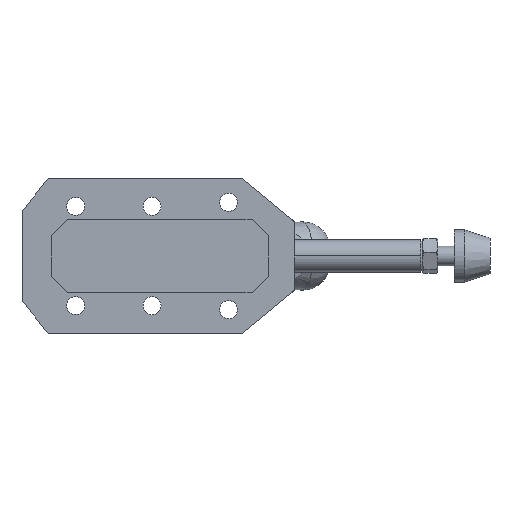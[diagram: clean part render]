
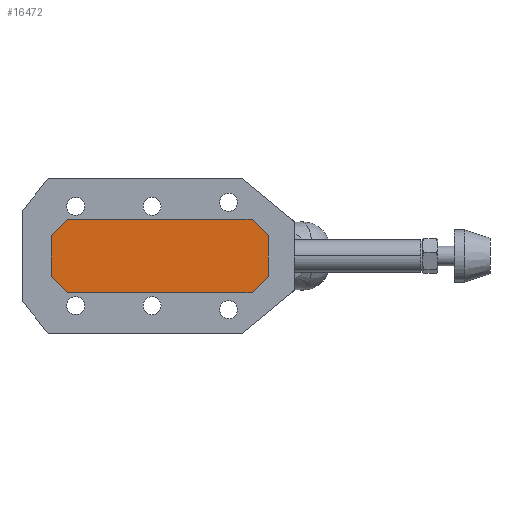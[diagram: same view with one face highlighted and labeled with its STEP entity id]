
A CAD part, front view. The second image highlights one B-rep face of the part: STEP entity #16472.
In plain terms, the highlighted planar face has unit normal (0, -1, 0).
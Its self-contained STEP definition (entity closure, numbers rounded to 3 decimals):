
#303 = VERTEX_POINT ( 'NONE', #901 ) ;
#901 = CARTESIAN_POINT ( 'NONE',  ( 28.85, 1.8, -11.25 ) ) ;
#937 = ORIENTED_EDGE ( 'NONE', *, *, #30912, .T. ) ;
#1190 = ORIENTED_EDGE ( 'NONE', *, *, #5530, .T. ) ;
#1215 = EDGE_CURVE ( 'NONE', #14319, #30948, #18973, .T. ) ;
#1530 = CARTESIAN_POINT ( 'NONE',  ( -27.85, 1.8, 11.25 ) ) ;
#2660 = VERTEX_POINT ( 'NONE', #10343 ) ;
#2818 = ORIENTED_EDGE ( 'NONE', *, *, #6540, .T. ) ;
#3074 = ORIENTED_EDGE ( 'NONE', *, *, #1215, .T. ) ;
#3282 = VECTOR ( 'NONE', #3623, 1000. ) ;
#3623 = DIRECTION ( 'NONE',  ( 0., 0., 1. ) ) ;
#4206 = DIRECTION ( 'NONE',  ( 0.707, 0., 0.707 ) ) ;
#4219 = CARTESIAN_POINT ( 'NONE',  ( 28.85, 1.8, 11.25 ) ) ;
#4646 = DIRECTION ( 'NONE',  ( 0., 1., 0. ) ) ;
#4655 = AXIS2_PLACEMENT_3D ( 'NONE', #19993, #4646, #27403 ) ;
#5314 = ORIENTED_EDGE ( 'NONE', *, *, #29201, .T. ) ;
#5530 = EDGE_CURVE ( 'NONE', #15562, #28912, #11208, .T. ) ;
#5887 = VECTOR ( 'NONE', #16434, 1000. ) ;
#6540 = EDGE_CURVE ( 'NONE', #303, #14319, #17355, .T. ) ;
#6912 = CARTESIAN_POINT ( 'NONE',  ( -32.85, 1.8, 6.25 ) ) ;
#7261 = ORIENTED_EDGE ( 'NONE', *, *, #31026, .T. ) ;
#9929 = ORIENTED_EDGE ( 'NONE', *, *, #29744, .T. ) ;
#10119 = CARTESIAN_POINT ( 'NONE',  ( -32.85, 1.8, -6.25 ) ) ;
#10343 = CARTESIAN_POINT ( 'NONE',  ( -32.85, 1.8, 6.25 ) ) ;
#11208 = LINE ( 'NONE', #27015, #5887 ) ;
#11816 = DIRECTION ( 'NONE',  ( -1., 0., 0. ) ) ;
#12066 = CARTESIAN_POINT ( 'NONE',  ( 28.85, 1.8, 11.25 ) ) ;
#12111 = LINE ( 'NONE', #27259, #14363 ) ;
#12310 = CARTESIAN_POINT ( 'NONE',  ( 33.85, 1.8, 6.25 ) ) ;
#12352 = VECTOR ( 'NONE', #11816, 1000. ) ;
#13907 = EDGE_CURVE ( 'NONE', #29601, #17354, #30311, .T. ) ;
#13917 = EDGE_LOOP ( 'NONE', ( #7261, #1190, #5314, #2818, #3074, #937, #18173, #9929 ) ) ;
#14319 = VERTEX_POINT ( 'NONE', #23282 ) ;
#14363 = VECTOR ( 'NONE', #29470, 1000. ) ;
#14835 = DIRECTION ( 'NONE',  ( -0.707, 0., 0.707 ) ) ;
#15562 = VERTEX_POINT ( 'NONE', #10119 ) ;
#16434 = DIRECTION ( 'NONE',  ( 0.707, 0., -0.707 ) ) ;
#16472 = ADVANCED_FACE ( 'NONE', ( #27727 ), #33099, .F. ) ;
#17032 = LINE ( 'NONE', #6912, #26785 ) ;
#17354 = VERTEX_POINT ( 'NONE', #19831 ) ;
#17355 = LINE ( 'NONE', #27274, #17775 ) ;
#17775 = VECTOR ( 'NONE', #4206, 1000. ) ;
#18173 = ORIENTED_EDGE ( 'NONE', *, *, #13907, .T. ) ;
#18973 = LINE ( 'NONE', #23992, #3282 ) ;
#19831 = CARTESIAN_POINT ( 'NONE',  ( -27.85, 1.8, 11.25 ) ) ;
#19993 = CARTESIAN_POINT ( 'NONE',  ( 0., 1.8, 0. ) ) ;
#21299 = LINE ( 'NONE', #31401, #27828 ) ;
#23282 = CARTESIAN_POINT ( 'NONE',  ( 33.85, 1.8, -6.25 ) ) ;
#23992 = CARTESIAN_POINT ( 'NONE',  ( 33.85, 1.8, 6.25 ) ) ;
#25256 = DIRECTION ( 'NONE',  ( 0., 0., -1. ) ) ;
#26785 = VECTOR ( 'NONE', #25256, 1000. ) ;
#27015 = CARTESIAN_POINT ( 'NONE',  ( -32.85, 1.8, -6.25 ) ) ;
#27259 = CARTESIAN_POINT ( 'NONE',  ( -27.85, 1.8, -11.25 ) ) ;
#27274 = CARTESIAN_POINT ( 'NONE',  ( 28.85, 1.8, -11.25 ) ) ;
#27403 = DIRECTION ( 'NONE',  ( 0., 0., 1. ) ) ;
#27727 = FACE_OUTER_BOUND ( 'NONE', #13917, .T. ) ;
#27828 = VECTOR ( 'NONE', #31573, 1000. ) ;
#28912 = VERTEX_POINT ( 'NONE', #29211 ) ;
#29201 = EDGE_CURVE ( 'NONE', #28912, #303, #12111, .T. ) ;
#29211 = CARTESIAN_POINT ( 'NONE',  ( -27.85, 1.8, -11.25 ) ) ;
#29470 = DIRECTION ( 'NONE',  ( 1., 0., 0. ) ) ;
#29601 = VERTEX_POINT ( 'NONE', #12066 ) ;
#29744 = EDGE_CURVE ( 'NONE', #17354, #2660, #21299, .T. ) ;
#30160 = LINE ( 'NONE', #4219, #33208 ) ;
#30311 = LINE ( 'NONE', #1530, #12352 ) ;
#30912 = EDGE_CURVE ( 'NONE', #30948, #29601, #30160, .T. ) ;
#30948 = VERTEX_POINT ( 'NONE', #12310 ) ;
#31026 = EDGE_CURVE ( 'NONE', #2660, #15562, #17032, .T. ) ;
#31401 = CARTESIAN_POINT ( 'NONE',  ( -32.85, 1.8, 6.25 ) ) ;
#31573 = DIRECTION ( 'NONE',  ( -0.707, 0., -0.707 ) ) ;
#33099 = PLANE ( 'NONE',  #4655 ) ;
#33208 = VECTOR ( 'NONE', #14835, 1000. ) ;
